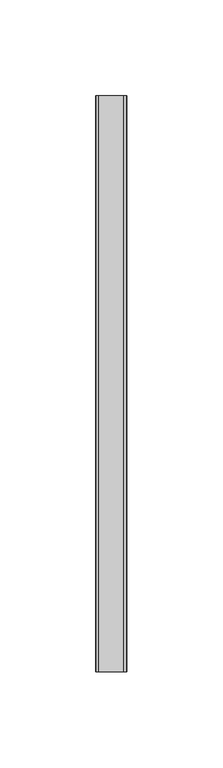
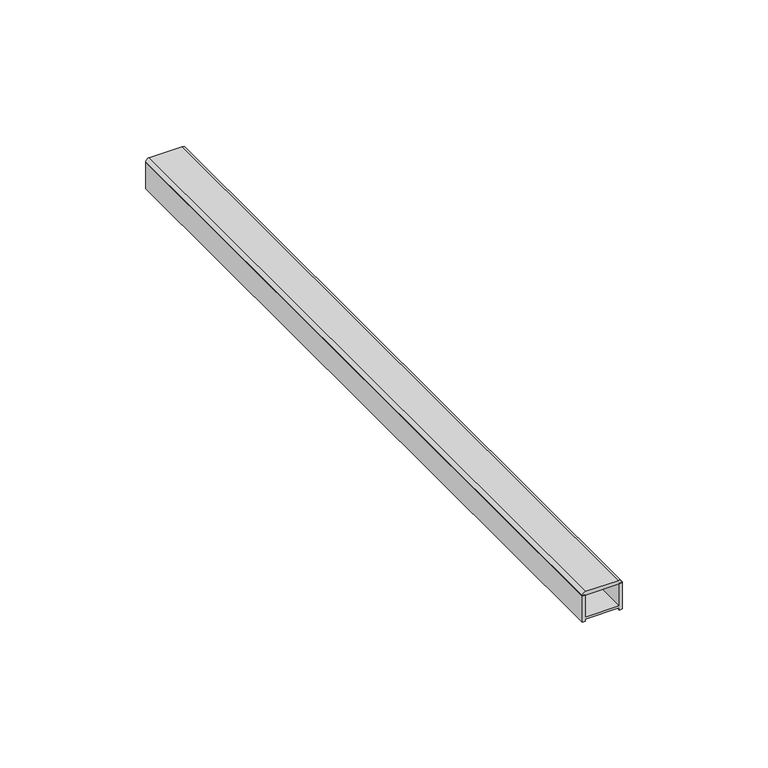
"""IFC4 building model written with IfcOpenShell, lengths in millimetres: proxy geometry, PORTOBELLO - METALLICA MET LUMI 1,6X120 : LUMI 1,6X120."""

from ifc_helpers import new_model, si_unit, point, frame, frame_2d, origin, place, context, project, spatial, polyline, circle_curve, trimmed, segment, composite_curve, outline, extrude, source, transform, mapped, element, save


def generic_models_25f4ca0b(model_context):
    return source(origin(), model_context, "Body", "SweptSolid", [
        extrude(outline(polyline([(-10.9620317, 8.0), (0.0, 8.0), (0.0, 6.7910928), (-9.2416656, 6.7910928), (-9.2416656, -6.7910928), (0.0, -6.7910928), (0.0, -8.0), (-10.9620317, -8.0), (-10.9620317, -6.7910928), (-10.0706009, -6.7910928), (-10.0706009, 6.7910928), (-10.9620317, 6.7910928), (-10.9620317, 8.0)])), frame((0.0, -600.0, 0.0), z_axis=(0.0, 1.0, 0.0), x_axis=(0.0, 0.0, 1.0)), (0.0, 0.0, 1.0), 300.0),
        extrude(outline(composite_curve([segment(polyline([(0.0, -8.0), (0.0, 8.0)]), True, "CONTINUOUS"), segment(trimmed(circle_curve(frame_2d((0.0, 6.5)), 1.5), [point((0.0, 8.0))], [point((1.5, 6.5))], False, "CARTESIAN"), True, "CONTINUOUS"), segment(polyline([(1.5, 6.5), (1.5, -6.5)]), True, "CONTINUOUS"), segment(trimmed(circle_curve(frame_2d((0.0, -6.5)), 1.5), [point((1.5, -6.5))], [point((0.0, -8.0))], False, "CARTESIAN"), True, "CONTINUOUS")], self_intersect=False)), frame((0.0, -600.0, 0.0), z_axis=(0.0, 1.0, 0.0), x_axis=(0.0, 0.0, 1.0)), (0.0, 0.0, 1.0), 300.0),
    ])


if __name__ == "__main__":
    model = new_model("IFC4")
    model_context = context("Model", 3, world=origin())
    ifc_project = project(units=[si_unit("LENGTHUNIT", "METRE", prefix="MILLI")], contexts=[model_context])
    site = spatial("IfcSite", under=ifc_project)
    building = spatial("IfcBuilding", under=site)
    placement = place(None, origin())
    generic_models_shape = generic_models_25f4ca0b(model_context)
    element("IfcBuildingElementProxy", 1, Name="PORTOBELLO - METALLICA MET LUMI 1,6X120 : LUMI 1,6X120", ObjectType="PORTOBELLO - METALLICA MET LUMI 1,6X120 : LUMI 1,6X120", at=placement, inside=building, context=model_context, shape_type="MappedRepresentation", body=[
        mapped(generic_models_shape, transform((0.0, 0.0, 0.0), x_axis=(1.0, 0.0, 0.0), y_axis=(0.0, 1.0, 0.0), z_axis=(0.0, 0.0, 1.0))),
    ])
    save(model, "model.ifc")
